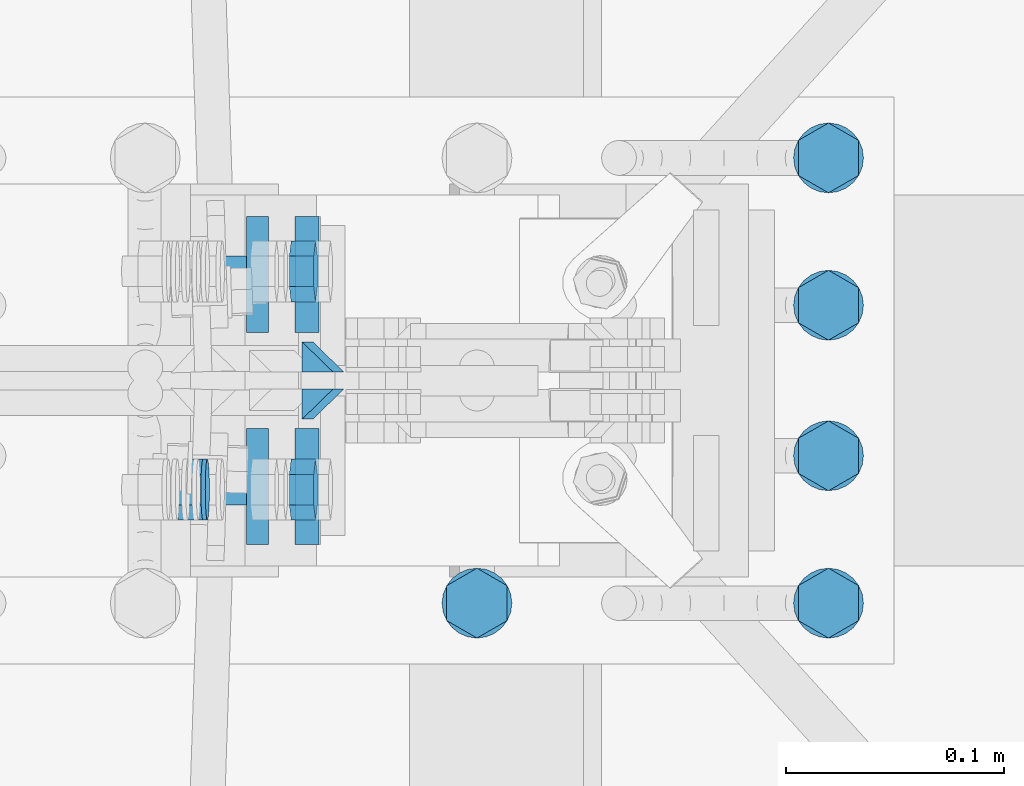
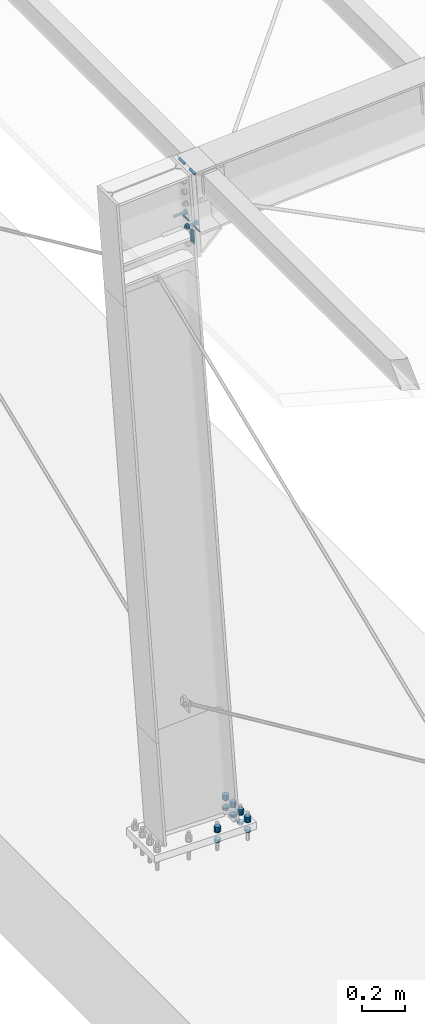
# One storey, part 35 of 72: 31 mechanical fasteners, 12 fasteners.
"""IFC4 building model written with IfcOpenShell, lengths in metres."""

from ifc_helpers import new_model, si_unit, frame, origin_with_axes, place, context, project, spatial, polyline, outline, extrude, type_object, element, save


model = new_model("IFC4")

# Units and contexts
model_context = context("Model", 3, precision=1e-05, world=origin_with_axes())
ifc_project = project(units=[si_unit("LENGTHUNIT", "METRE"), si_unit("AREAUNIT", "SQUARE_METRE"), si_unit("VOLUMEUNIT", "CUBIC_METRE"), si_unit("MASSUNIT", "GRAM", prefix="KILO"), si_unit("TIMEUNIT", "SECOND"), si_unit("PLANEANGLEUNIT", "RADIAN"), si_unit("SOLIDANGLEUNIT", "STERADIAN"), si_unit("THERMODYNAMICTEMPERATUREUNIT", "DEGREE_CELSIUS")], contexts=[model_context])

# Site, building, storey
placement_1 = place(None, origin_with_axes())
site = spatial("IfcSite", under=ifc_project, at=placement_1, Name="Italia", CompositionType="ELEMENT")
building = spatial("IfcBuilding", under=site, at=placement_1, Name="Pensilina", CompositionType="ELEMENT")
storey = spatial("IfcBuildingStorey", under=building, at=placement_1, Name="Storey 0", CompositionType="ELEMENT", Elevation=0.0)

# Mechanical fasteners
mechanical_fastener_type_1 = type_object("IfcMechanicalFastenerType", Name="Collegamento 0002_-197", PredefinedType="BOLT")
placement_2 = place(placement_1, origin_with_axes())
mechanical_fastener_1_placement = place(placement_2, origin_with_axes())
element("IfcMechanicalFastener", 1, at=mechanical_fastener_1_placement, inside=storey, type_object=mechanical_fastener_type_1, Name="Collegamento 0002_-197", NominalDiameter=0.016, context=model_context, shape_type="SweptSolid", body=[
    extrude(outline(polyline([(0.0, 0.0, 0.0), (0.0160003, 0.0, 0.0), (0.0240002, -0.0138565, 0.0), (0.0160003, -0.0277129, 0.0), (0.0, -0.0277129, 0.0), (-0.0079999, -0.0138565, 0.0), (0.0, 0.0, 0.0)])), frame((0.99419, 5.17, 0.107708), z_axis=(0.0, 0.0, 1.0), x_axis=(0.0, 1.0, 0.0)), (0.0, 0.0, 1.0), 0.0128),
])
mechanical_fastener_type_2 = type_object("IfcMechanicalFastenerType", Name="Collegamento 0002_-197", PredefinedType="BOLT")
mechanical_fastener_2_placement = place(placement_2, origin_with_axes())
element("IfcMechanicalFastener", 2, at=mechanical_fastener_2_placement, inside=storey, type_object=mechanical_fastener_type_2, Name="Collegamento 0002_-197", NominalDiameter=0.016, context=model_context, shape_type="SweptSolid", body=[
    extrude(outline(polyline([(0.0, 0.0, 0.0), (0.0160003, 0.0, 0.0), (0.0240002, -0.0138565, 0.0), (0.0160003, -0.0277129, 0.0), (0.0, -0.0277129, 0.0), (-0.0079999, -0.0138565, 0.0), (0.0, 0.0, 0.0)])), frame((0.99419, 5.17, 0.120508), z_axis=(0.0, 0.0, 1.0), x_axis=(0.0, 1.0, 0.0)), (0.0, 0.0, 1.0), 0.0128),
])
mechanical_fastener_type_3 = type_object("IfcMechanicalFastenerType", Name="Collegamento 0002_-197", PredefinedType="BOLT")
mechanical_fastener_3_placement = place(placement_2, origin_with_axes())
element("IfcMechanicalFastener", 3, at=mechanical_fastener_3_placement, inside=storey, type_object=mechanical_fastener_type_3, Name="Collegamento 0002_-197", NominalDiameter=0.016, context=model_context, shape_type="SweptSolid", body=[
    extrude(outline(polyline([(0.0, 0.0, 0.0), (0.0160003, 0.0, 0.0), (0.0240002, -0.0138565, 0.0), (0.0160003, -0.0277129, 0.0), (0.0, -0.0277129, 0.0), (-0.0079999, -0.0138565, 0.0), (0.0, 0.0, 0.0)])), frame((0.99419, 5.17, 0.0469081), z_axis=(0.0, 0.0, 1.0), x_axis=(0.0, 1.0, 0.0)), (0.0, 0.0, 1.0), 0.0128),
])
mechanical_fastener_type_4 = type_object("IfcMechanicalFastenerType", Name="Collegamento 0002_-197", PredefinedType="BOLT")
mechanical_fastener_4_placement = place(placement_2, origin_with_axes())
element("IfcMechanicalFastener", 4, at=mechanical_fastener_4_placement, inside=storey, type_object=mechanical_fastener_type_4, Name="Collegamento 0002_-197", NominalDiameter=0.032, context=model_context, shape_type="SweptSolid", body=[
    extrude(outline(polyline([(0.0, 0.0, 0.0), (-0.000545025, -0.00414109, 0.0), (-0.00214338, -0.00800002, 0.0), (-0.00468588, -0.0113137, 0.0), (-0.0079999, -0.0138564, 0.0), (-0.0118585, -0.0154548, 0.0), (-0.0159998, -0.016, 0.0), (-0.0201411, -0.0154548, 0.0), (-0.0239997, -0.0138564, 0.0), (-0.0273137, -0.0113137, 0.0), (-0.0298562, -0.00800002, 0.0), (-0.0314546, -0.00414109, 0.0), (-0.0319996, 0.0, 0.0), (-0.0314546, 0.00414109, 0.0), (-0.0298562, 0.00800002, 0.0), (-0.0273137, 0.0113137, 0.0), (-0.0239997, 0.0138564, 0.0), (-0.0201411, 0.0154548, 0.0), (-0.0159998, 0.016, 0.0), (-0.0118585, 0.0154548, 0.0), (-0.0079999, 0.0138564, 0.0), (-0.00468588, 0.0113137, 0.0), (-0.00214338, 0.00800002, 0.0), (-0.000545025, 0.00414109, 0.0), (0.0, 0.0, 0.0)])), frame((1.00805, 5.194, 0.103708), z_axis=(0.0, 0.0, 1.0), x_axis=(0.0, 1.0, 0.0)), (0.0, 0.0, 1.0), 0.004),
])
mechanical_fastener_type_5 = type_object("IfcMechanicalFastenerType", Name="Collegamento 0002_-197", PredefinedType="BOLT")
mechanical_fastener_5_placement = place(placement_2, origin_with_axes())
element("IfcMechanicalFastener", 5, at=mechanical_fastener_5_placement, inside=storey, type_object=mechanical_fastener_type_5, Name="Collegamento 0002_-197", NominalDiameter=0.032, context=model_context, shape_type="SweptSolid", body=[
    extrude(outline(polyline([(0.0, 0.0, 0.0), (-0.000545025, -0.00414109, 0.0), (-0.00214338, -0.00800002, 0.0), (-0.00468588, -0.0113137, 0.0), (-0.0079999, -0.0138564, 0.0), (-0.0118585, -0.0154548, 0.0), (-0.0159998, -0.016, 0.0), (-0.0201411, -0.0154548, 0.0), (-0.0239997, -0.0138564, 0.0), (-0.0273137, -0.0113137, 0.0), (-0.0298562, -0.00800002, 0.0), (-0.0314546, -0.00414109, 0.0), (-0.0319996, 0.0, 0.0), (-0.0314546, 0.00414109, 0.0), (-0.0298562, 0.00800002, 0.0), (-0.0273137, 0.0113137, 0.0), (-0.0239997, 0.0138564, 0.0), (-0.0201411, 0.0154548, 0.0), (-0.0159998, 0.016, 0.0), (-0.0118585, 0.0154548, 0.0), (-0.0079999, 0.0138564, 0.0), (-0.00468588, 0.0113137, 0.0), (-0.00214338, 0.00800002, 0.0), (-0.000545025, 0.00414109, 0.0), (0.0, 0.0, 0.0)])), frame((1.00805, 5.194, 0.0597081), z_axis=(0.0, 0.0, 1.0), x_axis=(0.0, 1.0, 0.0)), (0.0, 0.0, 1.0), 0.004),
])
mechanical_fastener_type_6 = type_object("IfcMechanicalFastenerType", Name="Collegamento 0002_-197", PredefinedType="BOLT")
mechanical_fastener_6_placement = place(placement_2, origin_with_axes())
element("IfcMechanicalFastener", 6, at=mechanical_fastener_6_placement, inside=storey, type_object=mechanical_fastener_type_6, Name="Collegamento 0002_-197", NominalDiameter=0.016, context=model_context, shape_type="SweptSolid", body=[
    extrude(outline(polyline([(0.0, 0.0, 0.0), (0.0160003, 0.0, 0.0), (0.0240002, -0.0138564, 0.0), (0.0160003, -0.0277128, 0.0), (0.0, -0.0277128, 0.0), (-0.0079999, -0.0138564, 0.0), (0.0, 0.0, 0.0)])), frame((1.15527, 5.374, 0.107708), z_axis=(0.0, 0.0, 1.0), x_axis=(0.0, 1.0, 0.0)), (0.0, 0.0, 1.0), 0.0128),
])
mechanical_fastener_type_7 = type_object("IfcMechanicalFastenerType", Name="Collegamento 0002_-197", PredefinedType="BOLT")
mechanical_fastener_7_placement = place(placement_2, origin_with_axes())
element("IfcMechanicalFastener", 7, at=mechanical_fastener_7_placement, inside=storey, type_object=mechanical_fastener_type_7, Name="Collegamento 0002_-197", NominalDiameter=0.016, context=model_context, shape_type="SweptSolid", body=[
    extrude(outline(polyline([(0.0, 0.0, 0.0), (0.0160003, 0.0, 0.0), (0.0240002, -0.0138564, 0.0), (0.0160003, -0.0277128, 0.0), (0.0, -0.0277128, 0.0), (-0.0079999, -0.0138564, 0.0), (0.0, 0.0, 0.0)])), frame((1.15527, 5.374, 0.120508), z_axis=(0.0, 0.0, 1.0), x_axis=(0.0, 1.0, 0.0)), (0.0, 0.0, 1.0), 0.0128),
])
mechanical_fastener_type_8 = type_object("IfcMechanicalFastenerType", Name="Collegamento 0002_-197", PredefinedType="BOLT")
mechanical_fastener_8_placement = place(placement_2, origin_with_axes())
element("IfcMechanicalFastener", 8, at=mechanical_fastener_8_placement, inside=storey, type_object=mechanical_fastener_type_8, Name="Collegamento 0002_-197", NominalDiameter=0.016, context=model_context, shape_type="SweptSolid", body=[
    extrude(outline(polyline([(0.0, 0.0, 0.0), (0.0160003, 0.0, 0.0), (0.0240002, -0.0138564, 0.0), (0.0160003, -0.0277128, 0.0), (0.0, -0.0277128, 0.0), (-0.0079999, -0.0138564, 0.0), (0.0, 0.0, 0.0)])), frame((1.15527, 5.374, 0.0469081), z_axis=(0.0, 0.0, 1.0), x_axis=(0.0, 1.0, 0.0)), (0.0, 0.0, 1.0), 0.0128),
])
mechanical_fastener_type_9 = type_object("IfcMechanicalFastenerType", Name="Collegamento 0002_-197", PredefinedType="BOLT")
mechanical_fastener_9_placement = place(placement_2, origin_with_axes())
element("IfcMechanicalFastener", 9, at=mechanical_fastener_9_placement, inside=storey, type_object=mechanical_fastener_type_9, Name="Collegamento 0002_-197", NominalDiameter=0.032, context=model_context, shape_type="SweptSolid", body=[
    extrude(outline(polyline([(0.0, 0.0, 0.0), (-0.000545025, -0.00414109, 0.0), (-0.00214338, -0.00800002, 0.0), (-0.00468588, -0.0113137, 0.0), (-0.0079999, -0.0138564, 0.0), (-0.0118585, -0.0154548, 0.0), (-0.0159998, -0.016, 0.0), (-0.0201411, -0.0154548, 0.0), (-0.0239997, -0.0138564, 0.0), (-0.0273137, -0.0113137, 0.0), (-0.0298562, -0.00800002, 0.0), (-0.0314546, -0.00414109, 0.0), (-0.0319996, 0.0, 0.0), (-0.0314546, 0.00414109, 0.0), (-0.0298562, 0.00800002, 0.0), (-0.0273137, 0.0113137, 0.0), (-0.0239997, 0.0138564, 0.0), (-0.0201411, 0.0154548, 0.0), (-0.0159998, 0.016, 0.0), (-0.0118585, 0.0154548, 0.0), (-0.0079999, 0.0138564, 0.0), (-0.00468588, 0.0113137, 0.0), (-0.00214338, 0.00800002, 0.0), (-0.000545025, 0.00414109, 0.0), (0.0, 0.0, 0.0)])), frame((1.16913, 5.398, 0.103708), z_axis=(0.0, 0.0, 1.0), x_axis=(0.0, 1.0, 0.0)), (0.0, 0.0, 1.0), 0.004),
])
mechanical_fastener_type_10 = type_object("IfcMechanicalFastenerType", Name="Collegamento 0002_-197", PredefinedType="BOLT")
mechanical_fastener_10_placement = place(placement_2, origin_with_axes())
element("IfcMechanicalFastener", 10, at=mechanical_fastener_10_placement, inside=storey, type_object=mechanical_fastener_type_10, Name="Collegamento 0002_-197", NominalDiameter=0.032, context=model_context, shape_type="SweptSolid", body=[
    extrude(outline(polyline([(0.0, 0.0, 0.0), (-0.000545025, -0.00414109, 0.0), (-0.00214338, -0.00800002, 0.0), (-0.00468588, -0.0113137, 0.0), (-0.0079999, -0.0138564, 0.0), (-0.0118585, -0.0154548, 0.0), (-0.0159998, -0.016, 0.0), (-0.0201411, -0.0154548, 0.0), (-0.0239997, -0.0138564, 0.0), (-0.0273137, -0.0113137, 0.0), (-0.0298562, -0.00800002, 0.0), (-0.0314546, -0.00414109, 0.0), (-0.0319996, 0.0, 0.0), (-0.0314546, 0.00414109, 0.0), (-0.0298562, 0.00800002, 0.0), (-0.0273137, 0.0113137, 0.0), (-0.0239997, 0.0138564, 0.0), (-0.0201411, 0.0154548, 0.0), (-0.0159998, 0.016, 0.0), (-0.0118585, 0.0154548, 0.0), (-0.0079999, 0.0138564, 0.0), (-0.00468588, 0.0113137, 0.0), (-0.00214338, 0.00800002, 0.0), (-0.000545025, 0.00414109, 0.0), (0.0, 0.0, 0.0)])), frame((1.16913, 5.398, 0.0597081), z_axis=(0.0, 0.0, 1.0), x_axis=(0.0, 1.0, 0.0)), (0.0, 0.0, 1.0), 0.004),
])
mechanical_fastener_type_11 = type_object("IfcMechanicalFastenerType", Name="Collegamento 0002_-197", PredefinedType="BOLT")
mechanical_fastener_11_placement = place(placement_2, origin_with_axes())
element("IfcMechanicalFastener", 11, at=mechanical_fastener_11_placement, inside=storey, type_object=mechanical_fastener_type_11, Name="Collegamento 0002_-197", NominalDiameter=0.0159998, context=model_context, shape_type="SweptSolid", body=[
    extrude(outline(polyline([(0.0, 0.0, 0.0), (0.0159998, 0.0, 0.0), (0.0239997, -0.0138564, 0.0), (0.0159998, -0.0277128, 0.0), (0.0, -0.0277128, 0.0), (-0.00800037, -0.0138564, 0.0), (0.0, 0.0, 0.0)])), frame((1.15527, 5.3065, 0.107708), z_axis=(0.0, 0.0, 1.0), x_axis=(0.0, 1.0, 0.0)), (0.0, 0.0, 1.0), 0.0128),
])
mechanical_fastener_type_12 = type_object("IfcMechanicalFastenerType", Name="Collegamento 0002_-197", PredefinedType="BOLT")
mechanical_fastener_12_placement = place(placement_2, origin_with_axes())
element("IfcMechanicalFastener", 12, at=mechanical_fastener_12_placement, inside=storey, type_object=mechanical_fastener_type_12, Name="Collegamento 0002_-197", NominalDiameter=0.0159998, context=model_context, shape_type="SweptSolid", body=[
    extrude(outline(polyline([(0.0, 0.0, 0.0), (0.0159998, 0.0, 0.0), (0.0239997, -0.0138564, 0.0), (0.0159998, -0.0277128, 0.0), (0.0, -0.0277128, 0.0), (-0.00800037, -0.0138564, 0.0), (0.0, 0.0, 0.0)])), frame((1.15527, 5.3065, 0.120508), z_axis=(0.0, 0.0, 1.0), x_axis=(0.0, 1.0, 0.0)), (0.0, 0.0, 1.0), 0.0128),
])
mechanical_fastener_type_13 = type_object("IfcMechanicalFastenerType", Name="Collegamento 0002_-197", PredefinedType="BOLT")
mechanical_fastener_13_placement = place(placement_2, origin_with_axes())
element("IfcMechanicalFastener", 13, at=mechanical_fastener_13_placement, inside=storey, type_object=mechanical_fastener_type_13, Name="Collegamento 0002_-197", NominalDiameter=0.0159998, context=model_context, shape_type="SweptSolid", body=[
    extrude(outline(polyline([(0.0, 0.0, 0.0), (0.0159998, 0.0, 0.0), (0.0239997, -0.0138564, 0.0), (0.0159998, -0.0277128, 0.0), (0.0, -0.0277128, 0.0), (-0.00800037, -0.0138564, 0.0), (0.0, 0.0, 0.0)])), frame((1.15527, 5.3065, 0.0469081), z_axis=(0.0, 0.0, 1.0), x_axis=(0.0, 1.0, 0.0)), (0.0, 0.0, 1.0), 0.0128),
])
mechanical_fastener_type_14 = type_object("IfcMechanicalFastenerType", Name="Collegamento 0002_-197", PredefinedType="BOLT")
mechanical_fastener_14_placement = place(placement_2, origin_with_axes())
element("IfcMechanicalFastener", 14, at=mechanical_fastener_14_placement, inside=storey, type_object=mechanical_fastener_type_14, Name="Collegamento 0002_-197", NominalDiameter=0.032, context=model_context, shape_type="SweptSolid", body=[
    extrude(outline(polyline([(0.0, 0.0, 0.0), (-0.000545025, -0.00414109, 0.0), (-0.00214338, -0.00800002, 0.0), (-0.00468588, -0.0113137, 0.0), (-0.0079999, -0.0138564, 0.0), (-0.0118585, -0.0154548, 0.0), (-0.0159998, -0.016, 0.0), (-0.0201411, -0.0154548, 0.0), (-0.0239997, -0.0138564, 0.0), (-0.0273137, -0.0113137, 0.0), (-0.0298562, -0.00800002, 0.0), (-0.0314546, -0.00414109, 0.0), (-0.0319996, 0.0, 0.0), (-0.0314546, 0.00414109, 0.0), (-0.0298562, 0.00800002, 0.0), (-0.0273137, 0.0113137, 0.0), (-0.0239997, 0.0138564, 0.0), (-0.0201411, 0.0154548, 0.0), (-0.0159998, 0.016, 0.0), (-0.0118585, 0.0154548, 0.0), (-0.0079999, 0.0138564, 0.0), (-0.00468588, 0.0113137, 0.0), (-0.00214338, 0.00800002, 0.0), (-0.000545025, 0.00414109, 0.0), (0.0, 0.0, 0.0)])), frame((1.16913, 5.3305, 0.103708), z_axis=(0.0, 0.0, 1.0), x_axis=(0.0, 1.0, 0.0)), (0.0, 0.0, 1.0), 0.004),
])
mechanical_fastener_type_15 = type_object("IfcMechanicalFastenerType", Name="Collegamento 0002_-197", PredefinedType="BOLT")
mechanical_fastener_15_placement = place(placement_2, origin_with_axes())
element("IfcMechanicalFastener", 15, at=mechanical_fastener_15_placement, inside=storey, type_object=mechanical_fastener_type_15, Name="Collegamento 0002_-197", NominalDiameter=0.032, context=model_context, shape_type="SweptSolid", body=[
    extrude(outline(polyline([(0.0, 0.0, 0.0), (-0.000545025, -0.00414109, 0.0), (-0.00214338, -0.00800002, 0.0), (-0.00468588, -0.0113137, 0.0), (-0.0079999, -0.0138564, 0.0), (-0.0118585, -0.0154548, 0.0), (-0.0159998, -0.016, 0.0), (-0.0201411, -0.0154548, 0.0), (-0.0239997, -0.0138564, 0.0), (-0.0273137, -0.0113137, 0.0), (-0.0298562, -0.00800002, 0.0), (-0.0314546, -0.00414109, 0.0), (-0.0319996, 0.0, 0.0), (-0.0314546, 0.00414109, 0.0), (-0.0298562, 0.00800002, 0.0), (-0.0273137, 0.0113137, 0.0), (-0.0239997, 0.0138564, 0.0), (-0.0201411, 0.0154548, 0.0), (-0.0159998, 0.016, 0.0), (-0.0118585, 0.0154548, 0.0), (-0.0079999, 0.0138564, 0.0), (-0.00468588, 0.0113137, 0.0), (-0.00214338, 0.00800002, 0.0), (-0.000545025, 0.00414109, 0.0), (0.0, 0.0, 0.0)])), frame((1.16913, 5.3305, 0.0597081), z_axis=(0.0, 0.0, 1.0), x_axis=(0.0, 1.0, 0.0)), (0.0, 0.0, 1.0), 0.004),
])
mechanical_fastener_type_16 = type_object("IfcMechanicalFastenerType", Name="Collegamento 0002_-197", PredefinedType="BOLT")
mechanical_fastener_16_placement = place(placement_2, origin_with_axes())
element("IfcMechanicalFastener", 16, at=mechanical_fastener_16_placement, inside=storey, type_object=mechanical_fastener_type_16, Name="Collegamento 0002_-197", NominalDiameter=0.0159998, context=model_context, shape_type="SweptSolid", body=[
    extrude(outline(polyline([(0.0, 0.0, 0.0), (0.0159998, 0.0, 0.0), (0.0240002, -0.0138564, 0.0), (0.0159998, -0.0277128, 0.0), (0.0, -0.0277128, 0.0), (-0.0079999, -0.0138564, 0.0), (0.0, 0.0, 0.0)])), frame((1.15527, 5.2375, 0.107708), z_axis=(0.0, 0.0, 1.0), x_axis=(0.0, 1.0, 0.0)), (0.0, 0.0, 1.0), 0.0128),
])
mechanical_fastener_type_17 = type_object("IfcMechanicalFastenerType", Name="Collegamento 0002_-197", PredefinedType="BOLT")
mechanical_fastener_17_placement = place(placement_2, origin_with_axes())
element("IfcMechanicalFastener", 17, at=mechanical_fastener_17_placement, inside=storey, type_object=mechanical_fastener_type_17, Name="Collegamento 0002_-197", NominalDiameter=0.0159998, context=model_context, shape_type="SweptSolid", body=[
    extrude(outline(polyline([(0.0, 0.0, 0.0), (0.0159998, 0.0, 0.0), (0.0240002, -0.0138564, 0.0), (0.0159998, -0.0277128, 0.0), (0.0, -0.0277128, 0.0), (-0.0079999, -0.0138564, 0.0), (0.0, 0.0, 0.0)])), frame((1.15527, 5.2375, 0.120508), z_axis=(0.0, 0.0, 1.0), x_axis=(0.0, 1.0, 0.0)), (0.0, 0.0, 1.0), 0.0128),
])
mechanical_fastener_type_18 = type_object("IfcMechanicalFastenerType", Name="Collegamento 0002_-197", PredefinedType="BOLT")
mechanical_fastener_18_placement = place(placement_2, origin_with_axes())
element("IfcMechanicalFastener", 18, at=mechanical_fastener_18_placement, inside=storey, type_object=mechanical_fastener_type_18, Name="Collegamento 0002_-197", NominalDiameter=0.0159998, context=model_context, shape_type="SweptSolid", body=[
    extrude(outline(polyline([(0.0, 0.0, 0.0), (0.0159998, 0.0, 0.0), (0.0240002, -0.0138564, 0.0), (0.0159998, -0.0277128, 0.0), (0.0, -0.0277128, 0.0), (-0.0079999, -0.0138564, 0.0), (0.0, 0.0, 0.0)])), frame((1.15527, 5.2375, 0.0469081), z_axis=(0.0, 0.0, 1.0), x_axis=(0.0, 1.0, 0.0)), (0.0, 0.0, 1.0), 0.0128),
])
mechanical_fastener_type_19 = type_object("IfcMechanicalFastenerType", Name="Collegamento 0002_-197", PredefinedType="BOLT")
mechanical_fastener_19_placement = place(placement_2, origin_with_axes())
element("IfcMechanicalFastener", 19, at=mechanical_fastener_19_placement, inside=storey, type_object=mechanical_fastener_type_19, Name="Collegamento 0002_-197", NominalDiameter=0.032, context=model_context, shape_type="SweptSolid", body=[
    extrude(outline(polyline([(0.0, 0.0, 0.0), (-0.000545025, -0.00414109, 0.0), (-0.00214338, -0.00800002, 0.0), (-0.00468588, -0.0113137, 0.0), (-0.0079999, -0.0138564, 0.0), (-0.0118585, -0.0154548, 0.0), (-0.0159998, -0.016, 0.0), (-0.0201411, -0.0154548, 0.0), (-0.0239997, -0.0138564, 0.0), (-0.0273137, -0.0113137, 0.0), (-0.0298562, -0.00800002, 0.0), (-0.0314546, -0.00414109, 0.0), (-0.0319996, 0.0, 0.0), (-0.0314546, 0.00414109, 0.0), (-0.0298562, 0.00800002, 0.0), (-0.0273137, 0.0113137, 0.0), (-0.0239997, 0.0138564, 0.0), (-0.0201411, 0.0154548, 0.0), (-0.0159998, 0.016, 0.0), (-0.0118585, 0.0154548, 0.0), (-0.0079999, 0.0138564, 0.0), (-0.00468588, 0.0113137, 0.0), (-0.00214338, 0.00800002, 0.0), (-0.000545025, 0.00414109, 0.0), (0.0, 0.0, 0.0)])), frame((1.16913, 5.2615, 0.103708), z_axis=(0.0, 0.0, 1.0), x_axis=(0.0, 1.0, 0.0)), (0.0, 0.0, 1.0), 0.004),
])
mechanical_fastener_type_20 = type_object("IfcMechanicalFastenerType", Name="Collegamento 0002_-197", PredefinedType="BOLT")
mechanical_fastener_20_placement = place(placement_2, origin_with_axes())
element("IfcMechanicalFastener", 20, at=mechanical_fastener_20_placement, inside=storey, type_object=mechanical_fastener_type_20, Name="Collegamento 0002_-197", NominalDiameter=0.032, context=model_context, shape_type="SweptSolid", body=[
    extrude(outline(polyline([(0.0, 0.0, 0.0), (-0.000545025, -0.00414109, 0.0), (-0.00214338, -0.00800002, 0.0), (-0.00468588, -0.0113137, 0.0), (-0.0079999, -0.0138564, 0.0), (-0.0118585, -0.0154548, 0.0), (-0.0159998, -0.016, 0.0), (-0.0201411, -0.0154548, 0.0), (-0.0239997, -0.0138564, 0.0), (-0.0273137, -0.0113137, 0.0), (-0.0298562, -0.00800002, 0.0), (-0.0314546, -0.00414109, 0.0), (-0.0319996, 0.0, 0.0), (-0.0314546, 0.00414109, 0.0), (-0.0298562, 0.00800002, 0.0), (-0.0273137, 0.0113137, 0.0), (-0.0239997, 0.0138564, 0.0), (-0.0201411, 0.0154548, 0.0), (-0.0159998, 0.016, 0.0), (-0.0118585, 0.0154548, 0.0), (-0.0079999, 0.0138564, 0.0), (-0.00468588, 0.0113137, 0.0), (-0.00214338, 0.00800002, 0.0), (-0.000545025, 0.00414109, 0.0), (0.0, 0.0, 0.0)])), frame((1.16913, 5.2615, 0.0597081), z_axis=(0.0, 0.0, 1.0), x_axis=(0.0, 1.0, 0.0)), (0.0, 0.0, 1.0), 0.004),
])
mechanical_fastener_type_21 = type_object("IfcMechanicalFastenerType", Name="Collegamento 0002_-197", PredefinedType="BOLT")
mechanical_fastener_21_placement = place(placement_2, origin_with_axes())
element("IfcMechanicalFastener", 21, at=mechanical_fastener_21_placement, inside=storey, type_object=mechanical_fastener_type_21, Name="Collegamento 0002_-197", NominalDiameter=0.016, context=model_context, shape_type="SweptSolid", body=[
    extrude(outline(polyline([(0.0, 0.0, 0.0), (0.0160003, 0.0, 0.0), (0.0240002, -0.0138564, 0.0), (0.0160003, -0.0277128, 0.0), (0.0, -0.0277128, 0.0), (-0.0079999, -0.0138564, 0.0), (0.0, 0.0, 0.0)])), frame((1.15527, 5.17, 0.107708), z_axis=(0.0, 0.0, 1.0), x_axis=(0.0, 1.0, 0.0)), (0.0, 0.0, 1.0), 0.0128),
])
mechanical_fastener_type_22 = type_object("IfcMechanicalFastenerType", Name="Collegamento 0002_-197", PredefinedType="BOLT")
mechanical_fastener_22_placement = place(placement_2, origin_with_axes())
element("IfcMechanicalFastener", 22, at=mechanical_fastener_22_placement, inside=storey, type_object=mechanical_fastener_type_22, Name="Collegamento 0002_-197", NominalDiameter=0.016, context=model_context, shape_type="SweptSolid", body=[
    extrude(outline(polyline([(0.0, 0.0, 0.0), (0.0160003, 0.0, 0.0), (0.0240002, -0.0138564, 0.0), (0.0160003, -0.0277128, 0.0), (0.0, -0.0277128, 0.0), (-0.0079999, -0.0138564, 0.0), (0.0, 0.0, 0.0)])), frame((1.15527, 5.17, 0.120508), z_axis=(0.0, 0.0, 1.0), x_axis=(0.0, 1.0, 0.0)), (0.0, 0.0, 1.0), 0.0128),
])
mechanical_fastener_type_23 = type_object("IfcMechanicalFastenerType", Name="Collegamento 0002_-197", PredefinedType="BOLT")
mechanical_fastener_23_placement = place(placement_2, origin_with_axes())
element("IfcMechanicalFastener", 23, at=mechanical_fastener_23_placement, inside=storey, type_object=mechanical_fastener_type_23, Name="Collegamento 0002_-197", NominalDiameter=0.016, context=model_context, shape_type="SweptSolid", body=[
    extrude(outline(polyline([(0.0, 0.0, 0.0), (0.0160003, 0.0, 0.0), (0.0240002, -0.0138564, 0.0), (0.0160003, -0.0277128, 0.0), (0.0, -0.0277128, 0.0), (-0.0079999, -0.0138564, 0.0), (0.0, 0.0, 0.0)])), frame((1.15527, 5.17, 0.0469081), z_axis=(0.0, 0.0, 1.0), x_axis=(0.0, 1.0, 0.0)), (0.0, 0.0, 1.0), 0.0128),
])
mechanical_fastener_type_24 = type_object("IfcMechanicalFastenerType", Name="Collegamento 0002_-197", PredefinedType="BOLT")
mechanical_fastener_24_placement = place(placement_2, origin_with_axes())
element("IfcMechanicalFastener", 24, at=mechanical_fastener_24_placement, inside=storey, type_object=mechanical_fastener_type_24, Name="Collegamento 0002_-197", NominalDiameter=0.032, context=model_context, shape_type="SweptSolid", body=[
    extrude(outline(polyline([(0.0, 0.0, 0.0), (-0.000545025, -0.00414109, 0.0), (-0.00214338, -0.00800002, 0.0), (-0.00468588, -0.0113137, 0.0), (-0.0079999, -0.0138564, 0.0), (-0.0118585, -0.0154548, 0.0), (-0.0159998, -0.016, 0.0), (-0.0201411, -0.0154548, 0.0), (-0.0239997, -0.0138564, 0.0), (-0.0273137, -0.0113137, 0.0), (-0.0298562, -0.00800002, 0.0), (-0.0314546, -0.00414109, 0.0), (-0.0319996, 0.0, 0.0), (-0.0314546, 0.00414109, 0.0), (-0.0298562, 0.00800002, 0.0), (-0.0273137, 0.0113137, 0.0), (-0.0239997, 0.0138564, 0.0), (-0.0201411, 0.0154548, 0.0), (-0.0159998, 0.016, 0.0), (-0.0118585, 0.0154548, 0.0), (-0.0079999, 0.0138564, 0.0), (-0.00468588, 0.0113137, 0.0), (-0.00214338, 0.00800002, 0.0), (-0.000545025, 0.00414109, 0.0), (0.0, 0.0, 0.0)])), frame((1.16913, 5.194, 0.103708), z_axis=(0.0, 0.0, 1.0), x_axis=(0.0, 1.0, 0.0)), (0.0, 0.0, 1.0), 0.004),
])
mechanical_fastener_type_25 = type_object("IfcMechanicalFastenerType", Name="Collegamento 0002_-197", PredefinedType="BOLT")
mechanical_fastener_25_placement = place(placement_2, origin_with_axes())
element("IfcMechanicalFastener", 25, at=mechanical_fastener_25_placement, inside=storey, type_object=mechanical_fastener_type_25, Name="Collegamento 0002_-197", NominalDiameter=0.032, context=model_context, shape_type="SweptSolid", body=[
    extrude(outline(polyline([(0.0, 0.0, 0.0), (-0.000545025, -0.00414109, 0.0), (-0.00214338, -0.00800002, 0.0), (-0.00468588, -0.0113137, 0.0), (-0.0079999, -0.0138564, 0.0), (-0.0118585, -0.0154548, 0.0), (-0.0159998, -0.016, 0.0), (-0.0201411, -0.0154548, 0.0), (-0.0239997, -0.0138564, 0.0), (-0.0273137, -0.0113137, 0.0), (-0.0298562, -0.00800002, 0.0), (-0.0314546, -0.00414109, 0.0), (-0.0319996, 0.0, 0.0), (-0.0314546, 0.00414109, 0.0), (-0.0298562, 0.00800002, 0.0), (-0.0273137, 0.0113137, 0.0), (-0.0239997, 0.0138564, 0.0), (-0.0201411, 0.0154548, 0.0), (-0.0159998, 0.016, 0.0), (-0.0118585, 0.0154548, 0.0), (-0.0079999, 0.0138564, 0.0), (-0.00468588, 0.0113137, 0.0), (-0.00214338, 0.00800002, 0.0), (-0.000545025, 0.00414109, 0.0), (0.0, 0.0, 0.0)])), frame((1.16913, 5.194, 0.0597081), z_axis=(0.0, 0.0, 1.0), x_axis=(0.0, 1.0, 0.0)), (0.0, 0.0, 1.0), 0.004),
])

# Fasteners
fastener_type_1 = type_object("IfcFastenerType", Name="Collegamento 0102_0202", PredefinedType="WELD")
fastener_1_placement = place(placement_2, origin_with_axes())
element("IfcFastener", 26, at=fastener_1_placement, inside=storey, type_object=fastener_type_1, Name="Collegamento 0102_0202", context=model_context, shape_type="SweptSolid", body=[
    extrude(outline(polyline([(0.0, 0.0, 0.0), (-0.00947309, 0.0105422, 0.0), (0.000676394, 0.00984502, 0.0), (0.0, 0.0, 0.0)])), frame((0.903157, 5.30195, 3.80624), z_axis=(0.0, 1.0, 0.0), x_axis=(-1.0, 0.0, 0.0)), (0.0, 0.0, 1.0), 0.0530996),
])
fastener_type_2 = type_object("IfcFastenerType", Name="Collegamento 0102_0202", PredefinedType="WELD")
fastener_2_placement = place(placement_2, origin_with_axes())
element("IfcFastener", 27, at=fastener_2_placement, inside=storey, type_object=fastener_type_2, Name="Collegamento 0102_0202", context=model_context, shape_type="SweptSolid", body=[
    extrude(outline(polyline([(0.0, 0.0, 0.0), (0.0108258, -0.00914764, 0.0), (0.000676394, -0.00984478, 0.0), (0.0, 0.0, 0.0)])), frame((0.924744, 5.35505, 3.49202), z_axis=(0.0, -1.0, 0.0), x_axis=(1.0, 0.0, 0.0)), (0.0, 0.0, 1.0), 0.0530996),
])
fastener_type_3 = type_object("IfcFastenerType", Name="Collegamento 0102_0202", PredefinedType="WELD")
fastener_3_placement = place(placement_2, origin_with_axes())
element("IfcFastener", 28, at=fastener_3_placement, inside=storey, type_object=fastener_type_3, Name="Collegamento 0102_0202", context=model_context, shape_type="SweptSolid", body=[
    extrude(outline(polyline([(0.0, 0.0, 0.0), (0.0108258, -0.00914764, 0.0), (0.000676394, -0.00984478, 0.0), (0.0, 0.0, 0.0)])), frame((0.924744, 5.25805, 3.49202), z_axis=(0.0, -1.0, 0.0), x_axis=(1.0, 0.0, 0.0)), (0.0, 0.0, 1.0), 0.0530996),
])
fastener_type_4 = type_object("IfcFastenerType", Name="Collegamento 0102_0202", PredefinedType="WELD")
fastener_4_placement = place(placement_2, origin_with_axes())
element("IfcFastener", 29, at=fastener_4_placement, inside=storey, type_object=fastener_type_4, Name="Collegamento 0102_0202", context=model_context, shape_type="SweptSolid", body=[
    extrude(outline(polyline([(0.0, 0.0, 0.0), (-0.00947309, 0.0105422, 0.0), (0.000676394, 0.00984502, 0.0), (0.0, 0.0, 0.0)])), frame((0.903157, 5.20495, 3.80624), z_axis=(0.0, 1.0, 0.0), x_axis=(-1.0, 0.0, 0.0)), (0.0, 0.0, 1.0), 0.0530996),
])
fastener_type_5 = type_object("IfcFastenerType", Name="Collegamento 0102_0202", PredefinedType="WELD")
fastener_5_placement = place(placement_2, origin_with_axes())
element("IfcFastener", 30, at=fastener_5_placement, inside=storey, type_object=fastener_type_5, Name="Collegamento 0102_0202", context=model_context, shape_type="SweptSolid", body=[
    extrude(outline(polyline([(0.0, 0.0, 0.0), (0.0137482, 0.0141734, 0.0), (0.0137482, 0.0, 0.0), (0.0, 0.0, 0.0)])), frame((0.932871, 5.2977, 3.37373), z_axis=(-0.068540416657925, 0.0, 0.997648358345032), x_axis=(0.0, -1.0, 0.0)), (0.0, 0.0, 1.0), 0.0721),
])
fastener_type_6 = type_object("IfcFastenerType", Name="Collegamento 0102_0202", PredefinedType="WELD")
fastener_6_placement = place(placement_2, origin_with_axes())
element("IfcFastener", 31, at=fastener_6_placement, inside=storey, type_object=fastener_type_6, Name="Collegamento 0102_0202", context=model_context, shape_type="SweptSolid", body=[
    extrude(outline(polyline([(0.0, 0.0, 0.0), (0.0137482, 0.0141734, 0.0), (0.0137482, 0.0, 0.0), (0.0, 0.0, 0.0)])), frame((0.927929, 5.2623, 3.44566), z_axis=(0.068540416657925, 0.0, -0.997648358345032), x_axis=(0.0, 1.0, 0.0)), (0.0, 0.0, 1.0), 0.0721),
])
fastener_type_7 = type_object("IfcFastenerType", Name="Collegamento 0102_0202", PredefinedType="WELD")
fastener_7_placement = place(placement_2, origin_with_axes())
element("IfcFastener", 32, at=fastener_7_placement, inside=storey, type_object=fastener_type_7, Name="Collegamento 0102_0202", context=model_context, shape_type="SweptSolid", body=[
    extrude(outline(polyline([(0.0, 0.0, 0.0), (-0.00947309, 0.0105422, 0.0), (0.000676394, 0.00984502, 0.0), (0.0, 0.0, 0.0)])), frame((0.903157, 5.30195, 3.80624), z_axis=(0.0, 1.0, 0.0), x_axis=(-1.0, 0.0, 0.0)), (0.0, 0.0, 1.0), 0.0530996),
])
fastener_type_8 = type_object("IfcFastenerType", Name="Collegamento 0102_0202", PredefinedType="WELD")
fastener_8_placement = place(placement_2, origin_with_axes())
element("IfcFastener", 33, at=fastener_8_placement, inside=storey, type_object=fastener_type_8, Name="Collegamento 0102_0202", context=model_context, shape_type="SweptSolid", body=[
    extrude(outline(polyline([(0.0, 0.0, 0.0), (0.0108258, -0.00914764, 0.0), (0.000676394, -0.00984478, 0.0), (0.0, 0.0, 0.0)])), frame((0.924744, 5.35505, 3.49202), z_axis=(0.0, -1.0, 0.0), x_axis=(1.0, 0.0, 0.0)), (0.0, 0.0, 1.0), 0.0530996),
])
fastener_type_9 = type_object("IfcFastenerType", Name="Collegamento 0102_0202", PredefinedType="WELD")
fastener_9_placement = place(placement_2, origin_with_axes())
element("IfcFastener", 34, at=fastener_9_placement, inside=storey, type_object=fastener_type_9, Name="Collegamento 0102_0202", context=model_context, shape_type="SweptSolid", body=[
    extrude(outline(polyline([(0.0, 0.0, 0.0), (0.0108258, -0.00914764, 0.0), (0.000676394, -0.00984478, 0.0), (0.0, 0.0, 0.0)])), frame((0.924744, 5.25805, 3.49202), z_axis=(0.0, -1.0, 0.0), x_axis=(1.0, 0.0, 0.0)), (0.0, 0.0, 1.0), 0.0530996),
])
fastener_type_10 = type_object("IfcFastenerType", Name="Collegamento 0102_0202", PredefinedType="WELD")
fastener_10_placement = place(placement_2, origin_with_axes())
element("IfcFastener", 35, at=fastener_10_placement, inside=storey, type_object=fastener_type_10, Name="Collegamento 0102_0202", context=model_context, shape_type="SweptSolid", body=[
    extrude(outline(polyline([(0.0, 0.0, 0.0), (-0.00947309, 0.0105422, 0.0), (0.000676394, 0.00984502, 0.0), (0.0, 0.0, 0.0)])), frame((0.903157, 5.20495, 3.80624), z_axis=(0.0, 1.0, 0.0), x_axis=(-1.0, 0.0, 0.0)), (0.0, 0.0, 1.0), 0.0530996),
])
fastener_type_11 = type_object("IfcFastenerType", Name="Collegamento 0102_0202", PredefinedType="WELD")
fastener_11_placement = place(placement_2, origin_with_axes())
element("IfcFastener", 36, at=fastener_11_placement, inside=storey, type_object=fastener_type_11, Name="Collegamento 0102_0202", context=model_context, shape_type="SweptSolid", body=[
    extrude(outline(polyline([(0.0, 0.0, 0.0), (0.0137482, 0.0141734, 0.0), (0.0137482, 0.0, 0.0), (0.0, 0.0, 0.0)])), frame((0.932871, 5.2977, 3.37373), z_axis=(-0.068540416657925, 0.0, 0.997648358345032), x_axis=(0.0, -1.0, 0.0)), (0.0, 0.0, 1.0), 0.0721),
])
fastener_type_12 = type_object("IfcFastenerType", Name="Collegamento 0102_0202", PredefinedType="WELD")
fastener_12_placement = place(placement_2, origin_with_axes())
element("IfcFastener", 37, at=fastener_12_placement, inside=storey, type_object=fastener_type_12, Name="Collegamento 0102_0202", context=model_context, shape_type="SweptSolid", body=[
    extrude(outline(polyline([(0.0, 0.0, 0.0), (0.0137482, 0.0141734, 0.0), (0.0137482, 0.0, 0.0), (0.0, 0.0, 0.0)])), frame((0.927929, 5.2623, 3.44566), z_axis=(0.068540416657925, 0.0, -0.997648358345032), x_axis=(0.0, 1.0, 0.0)), (0.0, 0.0, 1.0), 0.0721),
])

# Mechanical fasteners
mechanical_fastener_type_26 = type_object("IfcMechanicalFastenerType", Name="Collegamento 0102_0202", PredefinedType="BOLT")
mechanical_fastener_26_placement = place(placement_2, origin_with_axes())
element("IfcMechanicalFastener", 38, at=mechanical_fastener_26_placement, inside=storey, type_object=mechanical_fastener_type_26, Name="Collegamento 0102_0202", NominalDiameter=0.0139999, context=model_context, shape_type="SweptSolid", body=[
    extrude(outline(polyline([(0.0, 0.0, 0.0), (-0.0139999, 0.0, 0.0), (-0.0209999, 0.0121245, 0.0), (-0.0139999, 0.0242488, 0.0), (0.0, 0.0242488, 0.0), (0.00700045, 0.0121245, 0.0), (0.0, 0.0, 0.0)])), frame((0.923742, 5.237, 3.50734), z_axis=(0.997648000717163, 0.0, 0.068545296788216), x_axis=(0.0, 1.0, 0.0)), (0.0, 0.0, 1.0), 0.0112),
])
mechanical_fastener_type_27 = type_object("IfcMechanicalFastenerType", Name="Collegamento 0102_0202", PredefinedType="BOLT")
mechanical_fastener_27_placement = place(placement_2, origin_with_axes())
element("IfcMechanicalFastener", 39, at=mechanical_fastener_27_placement, inside=storey, type_object=mechanical_fastener_type_27, Name="Collegamento 0102_0202", NominalDiameter=0.014, context=model_context, shape_type="SweptSolid", body=[
    extrude(outline(polyline([(0.0, 0.0, 0.0), (-0.000238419, -0.00181174, 0.0), (-0.000937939, -0.00350022, 0.0), (-0.0020504, -0.00494981, 0.0), (-0.00349998, -0.00606227, 0.0), (-0.00518847, -0.00676155, 0.0), (-0.00699997, -0.00699997, 0.0), (-0.00881147, -0.00676155, 0.0), (-0.0105, -0.00606227, 0.0), (-0.0119495, -0.00494981, 0.0), (-0.013062, -0.00350022, 0.0), (-0.0137615, -0.00181174, 0.0), (-0.0139999, 0.0, 0.0), (-0.0137615, 0.00181174, 0.0), (-0.013062, 0.00349998, 0.0), (-0.0119495, 0.00494981, 0.0), (-0.0105, 0.00606227, 0.0), (-0.00881147, 0.00676155, 0.0), (-0.00699997, 0.00699997, 0.0), (-0.00518847, 0.00676155, 0.0), (-0.00349998, 0.00606227, 0.0), (-0.0020504, 0.00494981, 0.0), (-0.000937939, 0.00349998, 0.0), (-0.000238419, 0.00181174, 0.0), (0.0, 0.0, 0.0)])), frame((0.863551, 5.237, 3.51536), z_axis=(0.997648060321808, 0.0, 0.068544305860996), x_axis=(0.0, 1.0, 0.0)), (0.0, 0.0, 1.0), 0.0595),
])
mechanical_fastener_type_28 = type_object("IfcMechanicalFastenerType", Name="Collegamento 0102_0202", PredefinedType="BOLT")
mechanical_fastener_28_placement = place(placement_2, origin_with_axes())
element("IfcMechanicalFastener", 40, at=mechanical_fastener_28_placement, inside=storey, type_object=mechanical_fastener_type_28, Name="Collegamento 0102_0202", NominalDiameter=0.0139999, context=model_context, shape_type="SweptSolid", body=[
    extrude(outline(polyline([(0.0, 0.0, 0.0), (-0.0139999, 0.0, 0.0), (-0.0209999, 0.0121245, 0.0), (-0.0139999, 0.0242488, 0.0), (0.0, 0.0242488, 0.0), (0.00700045, 0.0121245, 0.0), (0.0, 0.0, 0.0)])), frame((0.872163, 5.237, 3.5038), z_axis=(0.997648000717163, 0.0, 0.068545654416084), x_axis=(0.0, 1.0, 0.0)), (0.0, 0.0, 1.0), 0.0111999),
])
mechanical_fastener_type_29 = type_object("IfcMechanicalFastenerType", Name="Collegamento 0102_0202", PredefinedType="BOLT")
mechanical_fastener_29_placement = place(placement_2, origin_with_axes())
element("IfcMechanicalFastener", 41, at=mechanical_fastener_29_placement, inside=storey, type_object=mechanical_fastener_type_29, Name="Collegamento 0102_0202", NominalDiameter=0.028, context=model_context, shape_type="SweptSolid", body=[
    extrude(outline(polyline([(0.0, 0.0, 0.0), (-0.000476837, -0.00362349, 0.0), (-0.0018754, -0.00699997, 0.0), (-0.00410032, -0.00989938, 0.0), (-0.00699997, -0.0121243, 0.0), (-0.0103765, -0.0135229, 0.0), (-0.0139999, -0.0139999, 0.0), (-0.0176234, -0.0135229, 0.0), (-0.0209999, -0.0121243, 0.0), (-0.0238996, -0.00989938, 0.0), (-0.0261245, -0.00699997, 0.0), (-0.027523, -0.00362349, 0.0), (-0.0279999, 0.0, 0.0), (-0.027523, 0.00362349, 0.0), (-0.0261245, 0.00699997, 0.0), (-0.0238996, 0.00989962, 0.0), (-0.0209999, 0.0121245, 0.0), (-0.0176234, 0.0135231, 0.0), (-0.0139999, 0.0139999, 0.0), (-0.0103765, 0.0135231, 0.0), (-0.00699997, 0.0121245, 0.0), (-0.00410032, 0.00989962, 0.0), (-0.0018754, 0.00699997, 0.0), (-0.000476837, 0.00362349, 0.0), (0.0, 0.0, 0.0)])), frame((0.882506, 5.244, 3.51666), z_axis=(0.997648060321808, 0.0, 0.06854435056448), x_axis=(0.0, 1.0, 0.0)), (0.0, 0.0, 1.0), 0.00200003),
])
mechanical_fastener_type_30 = type_object("IfcMechanicalFastenerType", Name="Collegamento 0102_0202", PredefinedType="BOLT")
mechanical_fastener_30_placement = place(placement_2, origin_with_axes())
element("IfcMechanicalFastener", 42, at=mechanical_fastener_30_placement, inside=storey, type_object=mechanical_fastener_type_30, Name="Collegamento 0102_0202", NominalDiameter=0.0139999, context=model_context, shape_type="SweptSolid", body=[
    extrude(outline(polyline([(0.0, 0.0, 0.0), (-0.0139999, 0.0, 0.0), (-0.0210004, 0.0121245, 0.0), (-0.0139999, 0.0242488, 0.0), (0.0, 0.0242488, 0.0), (0.00699997, 0.0121245, 0.0), (0.0, 0.0, 0.0)])), frame((0.923742, 5.337, 3.50734), z_axis=(0.997648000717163, 0.0, 0.068545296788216), x_axis=(0.0, 1.0, 0.0)), (0.0, 0.0, 1.0), 0.0112),
])
mechanical_fastener_type_31 = type_object("IfcMechanicalFastenerType", Name="Collegamento 0102_0202", PredefinedType="BOLT")
mechanical_fastener_31_placement = place(placement_2, origin_with_axes())
element("IfcMechanicalFastener", 43, at=mechanical_fastener_31_placement, inside=storey, type_object=mechanical_fastener_type_31, Name="Collegamento 0102_0202", NominalDiameter=0.014, context=model_context, shape_type="SweptSolid", body=[
    extrude(outline(polyline([(0.0, 0.0, 0.0), (-0.000238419, -0.00181174, 0.0), (-0.000937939, -0.00350022, 0.0), (-0.0020504, -0.00494981, 0.0), (-0.00349998, -0.00606227, 0.0), (-0.00518847, -0.00676155, 0.0), (-0.00699997, -0.00699997, 0.0), (-0.00881147, -0.00676155, 0.0), (-0.0105, -0.00606227, 0.0), (-0.0119495, -0.00494981, 0.0), (-0.013062, -0.00350022, 0.0), (-0.0137615, -0.00181174, 0.0), (-0.0139999, 0.0, 0.0), (-0.0137615, 0.00181174, 0.0), (-0.013062, 0.00349998, 0.0), (-0.0119495, 0.00494981, 0.0), (-0.0105, 0.00606227, 0.0), (-0.00881147, 0.00676155, 0.0), (-0.00699997, 0.00699997, 0.0), (-0.00518847, 0.00676155, 0.0), (-0.00349998, 0.00606227, 0.0), (-0.0020504, 0.00494981, 0.0), (-0.000937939, 0.00349998, 0.0), (-0.000238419, 0.00181174, 0.0), (0.0, 0.0, 0.0)])), frame((0.863551, 5.337, 3.51536), z_axis=(0.997648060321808, 0.0, 0.068544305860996), x_axis=(0.0, 1.0, 0.0)), (0.0, 0.0, 1.0), 0.0595),
])

save(model, "model.ifc")
